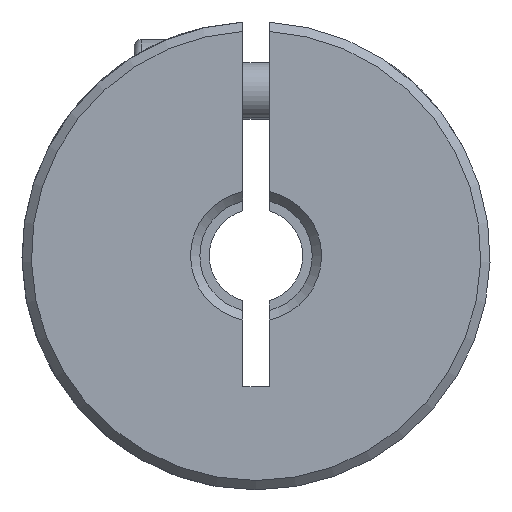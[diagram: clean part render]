
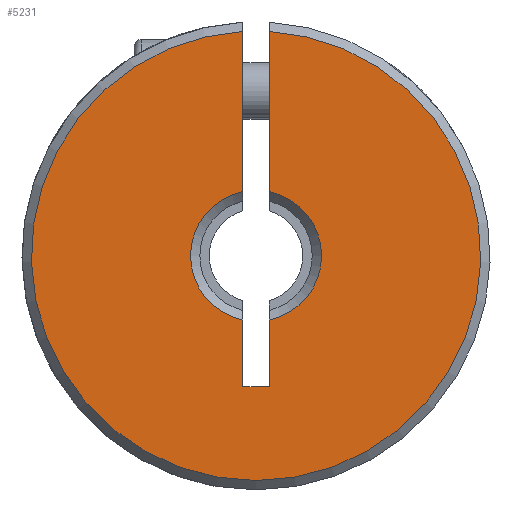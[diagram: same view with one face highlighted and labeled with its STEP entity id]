
A CAD part, front view. The second image highlights one B-rep face of the part: STEP entity #5231.
In plain terms, the highlighted planar face has unit normal (0, -1, 0).
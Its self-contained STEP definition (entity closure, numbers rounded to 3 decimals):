
#42 = VECTOR ( 'NONE', #4555, 1000. ) ;
#248 = EDGE_CURVE ( 'NONE', #2560, #2620, #4158, .T. ) ;
#282 = DIRECTION ( 'NONE',  ( 0., -1., 0. ) ) ;
#306 = DIRECTION ( 'NONE',  ( 0., 0., 1. ) ) ;
#400 = CARTESIAN_POINT ( 'NONE',  ( 0.7, 0.25, -7. ) ) ;
#447 = EDGE_LOOP ( 'NONE', ( #1813, #972, #1912, #3056, #1735, #1794, #2193, #1383 ) ) ;
#457 = LINE ( 'NONE', #1697, #3602 ) ;
#531 = AXIS2_PLACEMENT_3D ( 'NONE', #2618, #5168, #2996 ) ;
#578 = EDGE_CURVE ( 'NONE', #1719, #2560, #4890, .T. ) ;
#722 = DIRECTION ( 'NONE',  ( 0., 0., 1. ) ) ;
#792 = CARTESIAN_POINT ( 'NONE',  ( -0.7, 0.25, -7. ) ) ;
#886 = PLANE ( 'NONE',  #531 ) ;
#889 = VERTEX_POINT ( 'NONE', #3321 ) ;
#972 = ORIENTED_EDGE ( 'NONE', *, *, #3898, .T. ) ;
#1365 = AXIS2_PLACEMENT_3D ( 'NONE', #4355, #4772, #2861 ) ;
#1383 = ORIENTED_EDGE ( 'NONE', *, *, #5116, .T. ) ;
#1394 = CARTESIAN_POINT ( 'NONE',  ( -0.7, 0.25, 11.98 ) ) ;
#1523 = EDGE_CURVE ( 'NONE', #889, #4034, #457, .T. ) ;
#1674 = AXIS2_PLACEMENT_3D ( 'NONE', #2324, #282, #722 ) ;
#1697 = CARTESIAN_POINT ( 'NONE',  ( 0.7, 0.25, -7. ) ) ;
#1719 = VERTEX_POINT ( 'NONE', #4384 ) ;
#1735 = ORIENTED_EDGE ( 'NONE', *, *, #578, .F. ) ;
#1794 = ORIENTED_EDGE ( 'NONE', *, *, #3910, .T. ) ;
#1810 = CARTESIAN_POINT ( 'NONE',  ( 0.7, 0.25, 11.98 ) ) ;
#1813 = ORIENTED_EDGE ( 'NONE', *, *, #1523, .F. ) ;
#1912 = ORIENTED_EDGE ( 'NONE', *, *, #4790, .F. ) ;
#2193 = ORIENTED_EDGE ( 'NONE', *, *, #2734, .F. ) ;
#2314 = CARTESIAN_POINT ( 'NONE',  ( 0.7, 0.25, -7. ) ) ;
#2324 = CARTESIAN_POINT ( 'NONE',  ( 0., 0.25, 0. ) ) ;
#2337 = AXIS2_PLACEMENT_3D ( 'NONE', #2401, #4116, #306 ) ;
#2401 = CARTESIAN_POINT ( 'NONE',  ( 0., 0.25, 0. ) ) ;
#2502 = DIRECTION ( 'NONE',  ( 0., 0., 1. ) ) ;
#2558 = CARTESIAN_POINT ( 'NONE',  ( 0.7, 0.25, -3.429 ) ) ;
#2560 = VERTEX_POINT ( 'NONE', #792 ) ;
#2618 = CARTESIAN_POINT ( 'NONE',  ( 12.5, 0.25, -50. ) ) ;
#2620 = VERTEX_POINT ( 'NONE', #2314 ) ;
#2734 = EDGE_CURVE ( 'NONE', #4565, #2767, #5320, .T. ) ;
#2767 = VERTEX_POINT ( 'NONE', #2936 ) ;
#2833 = DIRECTION ( 'NONE',  ( 0., 0., -1. ) ) ;
#2861 = DIRECTION ( 'NONE',  ( 0., 0., 1. ) ) ;
#2904 = CIRCLE ( 'NONE', #1674, 12. ) ;
#2936 = CARTESIAN_POINT ( 'NONE',  ( -0.7, 0.25, 3.429 ) ) ;
#2996 = DIRECTION ( 'NONE',  ( 0., 0., 1. ) ) ;
#3056 = ORIENTED_EDGE ( 'NONE', *, *, #248, .F. ) ;
#3307 = LINE ( 'NONE', #4987, #4027 ) ;
#3321 = CARTESIAN_POINT ( 'NONE',  ( 0.7, 0.25, 3.429 ) ) ;
#3436 = VECTOR ( 'NONE', #2833, 1000. ) ;
#3485 = FACE_OUTER_BOUND ( 'NONE', #447, .T. ) ;
#3489 = CARTESIAN_POINT ( 'NONE',  ( -0.7, 0.25, -7. ) ) ;
#3602 = VECTOR ( 'NONE', #4644, 1000. ) ;
#3719 = CIRCLE ( 'NONE', #1365, 3.5 ) ;
#3736 = DIRECTION ( 'NONE',  ( 1., 0., 0. ) ) ;
#3898 = EDGE_CURVE ( 'NONE', #889, #4381, #3719, .T. ) ;
#3910 = EDGE_CURVE ( 'NONE', #1719, #2767, #5137, .T. ) ;
#4027 = VECTOR ( 'NONE', #2502, 1000. ) ;
#4034 = VERTEX_POINT ( 'NONE', #1810 ) ;
#4116 = DIRECTION ( 'NONE',  ( 0., 1., 0. ) ) ;
#4158 = LINE ( 'NONE', #400, #4676 ) ;
#4355 = CARTESIAN_POINT ( 'NONE',  ( 0., 0.25, 0. ) ) ;
#4381 = VERTEX_POINT ( 'NONE', #2558 ) ;
#4384 = CARTESIAN_POINT ( 'NONE',  ( -0.7, 0.25, -3.429 ) ) ;
#4555 = DIRECTION ( 'NONE',  ( 0., 0., -1. ) ) ;
#4565 = VERTEX_POINT ( 'NONE', #1394 ) ;
#4644 = DIRECTION ( 'NONE',  ( 0., 0., 1. ) ) ;
#4676 = VECTOR ( 'NONE', #3736, 1000. ) ;
#4772 = DIRECTION ( 'NONE',  ( 0., 1., 0. ) ) ;
#4790 = EDGE_CURVE ( 'NONE', #2620, #4381, #3307, .T. ) ;
#4890 = LINE ( 'NONE', #3489, #3436 ) ;
#4987 = CARTESIAN_POINT ( 'NONE',  ( 0.7, 0.25, -7. ) ) ;
#4994 = CARTESIAN_POINT ( 'NONE',  ( -0.7, 0.25, -7. ) ) ;
#5116 = EDGE_CURVE ( 'NONE', #4565, #4034, #2904, .T. ) ;
#5137 = CIRCLE ( 'NONE', #2337, 3.5 ) ;
#5168 = DIRECTION ( 'NONE',  ( 0., 1., 0. ) ) ;
#5231 = ADVANCED_FACE ( 'NONE', ( #3485 ), #886, .F. ) ;
#5320 = LINE ( 'NONE', #4994, #42 ) ;
